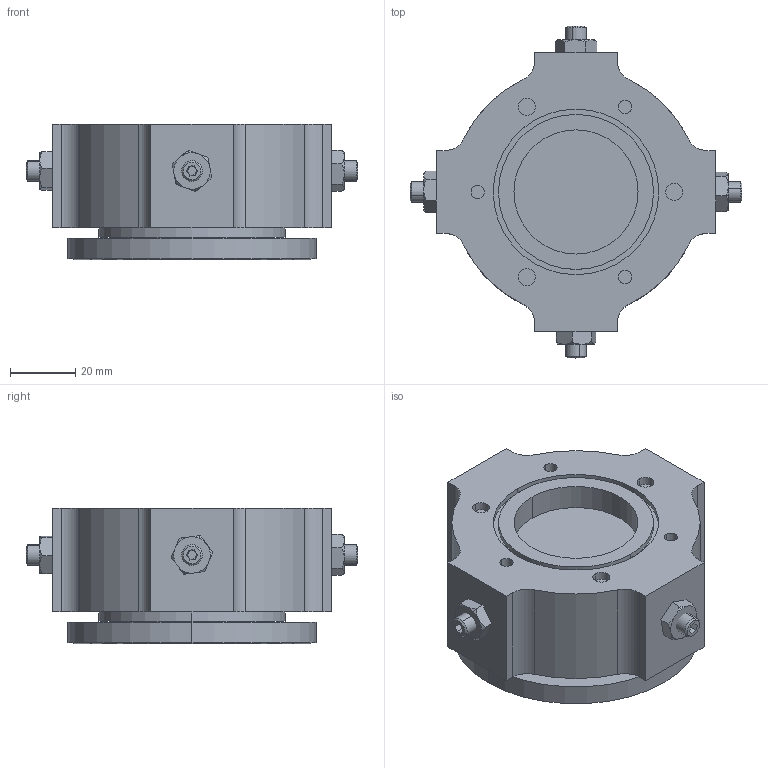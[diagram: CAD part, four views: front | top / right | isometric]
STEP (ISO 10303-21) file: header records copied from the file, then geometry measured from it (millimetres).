
FILE_DESCRIPTION (( 'STEP AP214' ), '1' );
FILE_NAME ('TM-38.STEP', '2017-03-06T21:51:34', ( '' ), ( '' ), 'SwSTEP 2.0', 'SolidWorks 2017', '' );
FILE_SCHEMA (( 'AUTOMOTIVE_DESIGN' ));
Length unit declared in the file: inch
Products named in the file (1): TM-38
Bounding box: 101.85 x 101.85 x 41.52 mm (x, y, z)
Volume: 252989.5 mm3; surface area: 60233.1 mm2
Topology: 13 solids, 13 shells, 291 faces, 640 edges, 410 vertices
Faces by surface type: plane 117, cylinder 84, torus 44, cone 38, sphere 8
Entity records: 8452 total; most frequent: CARTESIAN_POINT 1662, DIRECTION 1466, ORIENTED_EDGE 1280, EDGE_CURVE 640, AXIS2_PLACEMENT_3D 582, VERTEX_POINT 410, EDGE_LOOP 332, LINE 302
